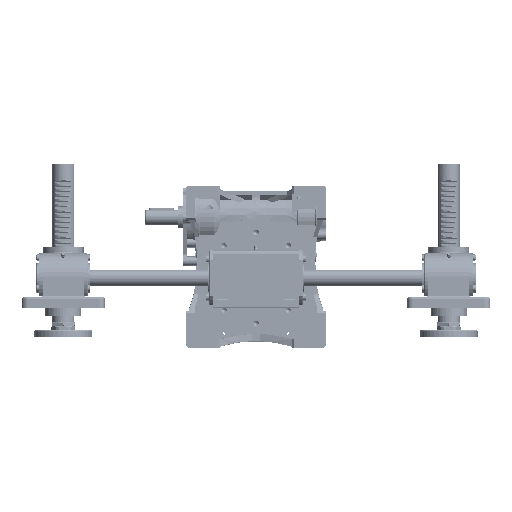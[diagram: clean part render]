
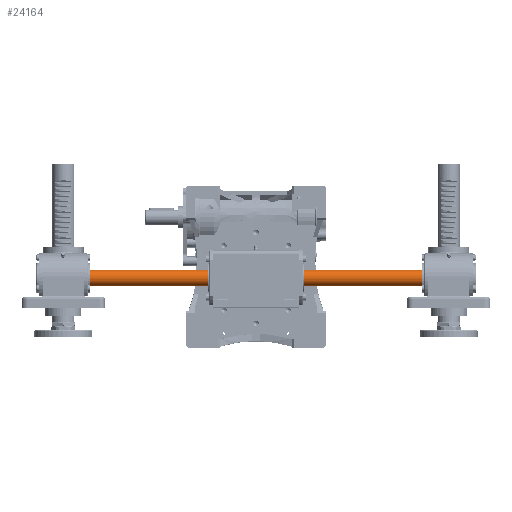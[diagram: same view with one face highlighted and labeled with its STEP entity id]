
A CAD part, left-side view. The second image highlights one B-rep face of the part: STEP entity #24164.
In plain terms, the highlighted cylindrical face has radius 15 mm (diameter 30 mm), a full revolution.
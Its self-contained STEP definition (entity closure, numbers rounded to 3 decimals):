
#24164=ADVANCED_FACE('',(#56899,#56900),#56901,.T.);
#56899=FACE_OUTER_BOUND('',#103295,.T.);
#56900=FACE_OUTER_BOUND('',#103296,.T.);
#56901=CYLINDRICAL_SURFACE('',#103297,15.0);
#103295=EDGE_LOOP('',(#232240));
#103296=EDGE_LOOP('',(#232241));
#103297=AXIS2_PLACEMENT_3D('',#232242,#232243,#232244);
#232240=ORIENTED_EDGE('',*,*,#282872,.F.);
#232241=ORIENTED_EDGE('',*,*,#282874,.F.);
#232242=CARTESIAN_POINT('',(0.0,0.0,0.0));
#232243=DIRECTION('',(0.0,0.0,-1.0));
#232244=DIRECTION('',(1.0,0.0,0.0));
#282872=EDGE_CURVE('',#353911,#353911,#353912,.T.);
#282874=EDGE_CURVE('',#353915,#353915,#353916,.T.);
#353911=VERTEX_POINT('',#473752);
#353912=CIRCLE('',#473753,15.0);
#353915=VERTEX_POINT('',#473756);
#353916=CIRCLE('',#473757,15.0);
#473752=CARTESIAN_POINT('',(15.0,0.,779.0));
#473753=AXIS2_PLACEMENT_3D('',#530505,#530506,#530507);
#473756=CARTESIAN_POINT('',(15.0,0.,1.0));
#473757=AXIS2_PLACEMENT_3D('',#530511,#530512,#530513);
#530505=CARTESIAN_POINT('',(0.0,0.0,779.0));
#530506=DIRECTION('',(0.0,0.0,1.0));
#530507=DIRECTION('',(-1.0,0.0,0.0));
#530511=CARTESIAN_POINT('',(0.0,0.0,1.0));
#530512=DIRECTION('',(0.0,0.0,-1.0));
#530513=DIRECTION('',(-1.0,0.0,0.0));
